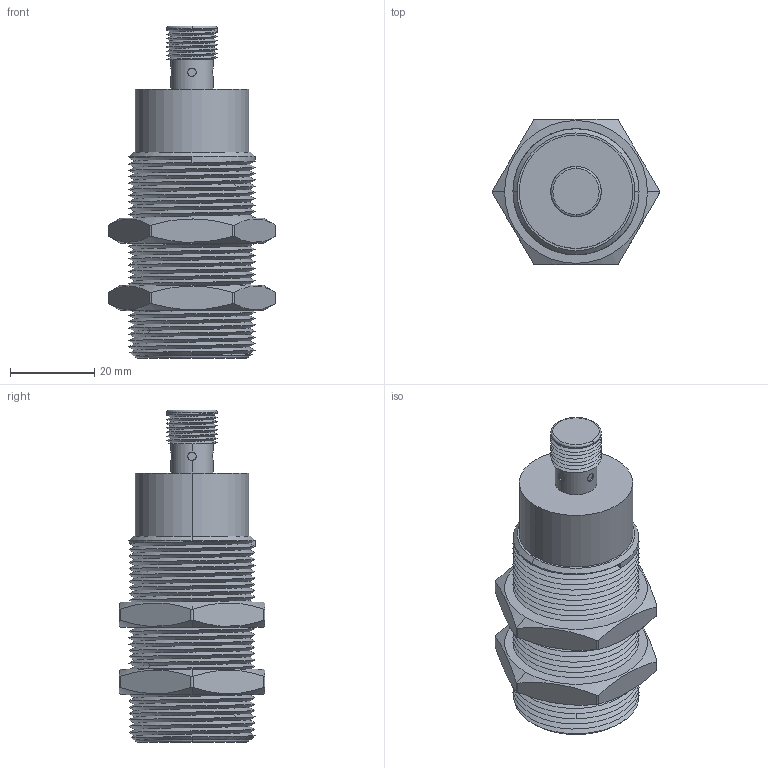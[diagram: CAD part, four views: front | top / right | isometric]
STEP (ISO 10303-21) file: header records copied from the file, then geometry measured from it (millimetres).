
FILE_DESCRIPTION((''),'2;1');
FILE_NAME('M30_QP_DS1279_ASM','2019-07-17T',('Administrator'),(''),'PRO/ENGINEER BY PARAMETRIC TECHNOLOGY CORPORATION, 2012130','PRO/ENGINEER BY PARAMETRIC TECHNOLOGY CORPORATION, 2012130','');
FILE_SCHEMA(('AUTOMOTIVE_DESIGN { 1 0 10303 214 1 1 1 1 }'));
Length unit declared in the file: millimetre
Products named in the file (3): M30_QP_DS1279; M30_LM; M30_QP_DS1279_ASM
Assembly tree (3 placements, depth 2):
  M30_QP_DS1279_ASM
    M30_QP_DS1279
    M30_LM  x2
Bounding box: 39.85 x 34.64 x 79 mm (x, y, z)
Volume: 46732.5 mm3; surface area: 16556 mm2
Topology: 3 solids, 3 shells, 117 faces, 359 edges, 254 vertices
Faces by surface type: cylinder 42, plane 31, bspline 28, cone 12, torus 4
Entity records: 12707 total; most frequent: CARTESIAN_POINT 9769, ORIENTED_EDGE 552, DIRECTION 297, EDGE_CURVE 276, VERTEX_POINT 199, PRESENTATION_STYLE_ASSIGNMENT 195, STYLED_ITEM 194, CURVE_STYLE 193
